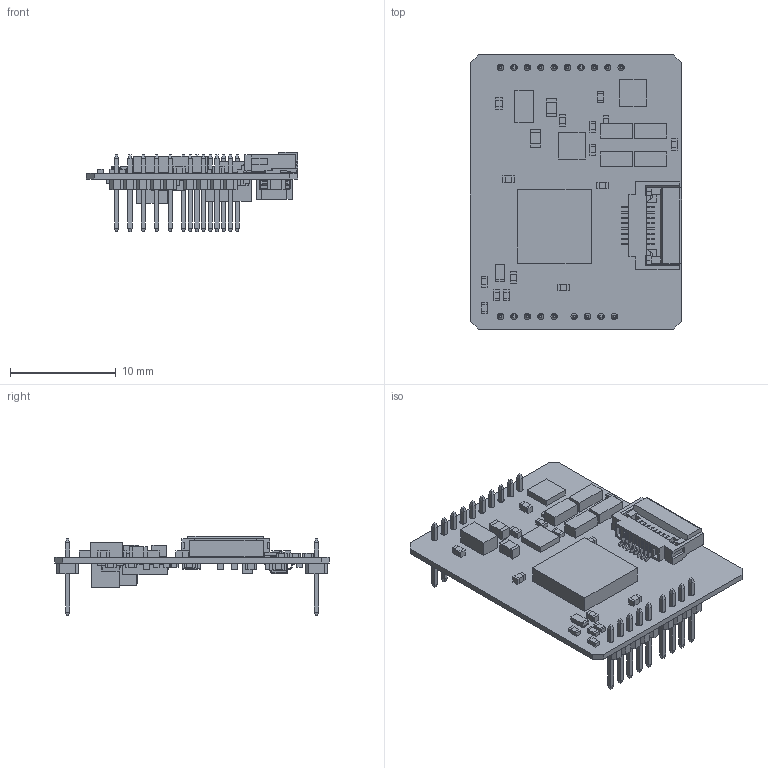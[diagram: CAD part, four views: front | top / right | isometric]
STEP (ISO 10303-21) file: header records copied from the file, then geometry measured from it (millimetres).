
FILE_DESCRIPTION (( 'STEP AP214' ), '1' );
FILE_NAME ('TTP Ventus - Generic Driver PCB.STEP', '2019-08-22T11:06:14', ( '' ), ( '' ), 'SwSTEP 2.0', 'SolidWorks 2016', '' );
FILE_SCHEMA (( 'AUTOMOTIVE_DESIGN' ));
Length unit declared in the file: millimetre
Products named in the file (138): M50-35304_MOULD_1; 6740664640_1; User_Library-HSMF-C16x_HSMF-C16x_glass_1; 6740665792_1; m50-3530542_asm_1; C17_1; Q2_2_1; Extruded_101_1; D1_2_1; Extruded_90_1; Extruded_103_1; Body_2_1; R9_2_1; Extruded_99_1; C25_1; FH52-8S-0.5SH_1; R17_1; C11_1; Board_2_1; m50-3530442_asm_1; 6740665216_1; 6740663296_1; Open_CASCADE_STEP_translator_6.8_48.1.1_1; C14_1; M50-353_CONTACT_2_1; R7_2_1; R13_2_1; Extruded_98_1; R19_1; L1_2_1; C16_1; Extruded_82_1; Extruded_91_1; 6740665408_1; C20_1; P4_2_1; C6_2_1; Extruded_81_1; R6_2_1; 6740666752_1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
Assembly tree (278 placements, depth 5):
  TTP Ventus - Generic Driver PCB
    Board_2_1
    U6_2_1
      6692247040_1
        Body_2_1
          Open_CASCADE_STEP_translator_6.8_4.1.1_4_1
        Leader_2_1  x5
    Q1_2_1
      6740663104_1
        Extruded_80_1
    U5_2_1
      6740663680_1
        Extruded_81_1
    U4_2_1
      6740663680_1
        Extruded_81_1
    U3_2_1
      6740663488_1
        Extruded_82_1
    U2_2_1
      6740664256_1
        Extruded_83_1
    U1_2_1
      6740663296_1
        Extruded_84_1
    R20_1
      6740666560_1  x2
        Extruded_85_1
      6740666368_1
        Extruded_86_1
    R19_1
      6740666560_1  x2
        Extruded_85_1
      6740666368_1
        Extruded_86_1
    R18_1
      6740666944_1  x2
        Extruded_87_1
      6740666752_1
        Extruded_88_1
    R17_1
      6740666944_1  x2
        Extruded_87_1
      6740666752_1
        Extruded_88_1
    R16_1
      6740666944_1  x2
        Extruded_87_1
      6740666752_1
        Extruded_88_1
    R15_1
      6740666944_1  x2
        Extruded_87_1
      6740666752_1
        Extruded_88_1
    R14_2_1
      6740666944_1  x2
        Extruded_87_1
      6740666752_1
        Extruded_88_1
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Bounding box: 20 x 26 x 7.54 mm (x, y, z)
Volume: 631.3 mm3; surface area: 2546 mm2
Topology: 181 solids, 181 shells, 2094 faces, 4893 edges, 3169 vertices
Faces by surface type: plane 1904, cylinder 162, bspline 28
Entity records: 48370 total; most frequent: CARTESIAN_POINT 7227, DIRECTION 5540, ORIENTED_EDGE 5292, EDGE_CURVE 2646, LINE 2352, VECTOR 2352, VERTEX_POINT 1721, AXIS2_PLACEMENT_3D 1594
